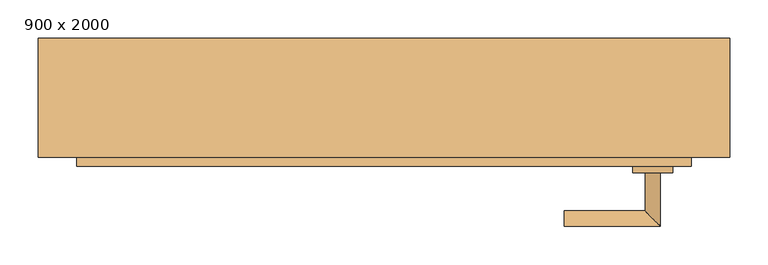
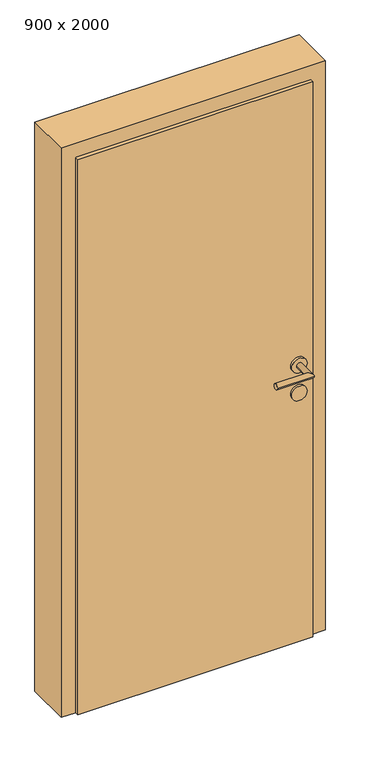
"""IFC4 building model written with IfcOpenShell, lengths in millimetres: door geometry, Jednokridle oboustrana zaruben : 900 x 2000."""

import ifcopenshell
import ifcopenshell.guid

model = None  # the IFC model being written
_history = None  # IfcOwnerHistory: only IFC2X3 demands one
_inside = {}  # id of a spatial element -> (the spatial element, [elements in it])
_under = {}  # id of a project, library or spatial element -> (it, [spatial elements below it])
_declared = {}  # id of a project -> (the project, [libraries it declares])
_typed = {}  # id of a type object -> (the type object, [elements of that type])
_made_of = {}  # id of a material, layer set ... -> (it, [elements and type objects made of it])


def new_model(schema):
    """Start an empty IFC model of exactly this schema.

    Asked for "IFC4X3", IfcOpenShell would pick the latest addendum, in which some entities
    have other attributes; the version numbers below select the first issue.
    IFC2X3 requires an IfcOwnerHistory on every rooted entity: one is made here for all.
    """
    global model, _history
    if schema == "IFC4X3":
        model = ifcopenshell.file(schema_version=(4, 3, 0, 0))
    else:
        model = ifcopenshell.file(schema=schema)
    _inside.clear()
    _under.clear()
    _declared.clear()
    _typed.clear()
    _made_of.clear()
    _history = None
    if model.schema == "IFC2X3":
        org = make("IfcOrganization", Name="unknown")
        user = make(
            "IfcPersonAndOrganization",
            ThePerson=make("IfcPerson", FamilyName="unknown"),
            TheOrganization=org,
        )
        app = make(
            "IfcApplication",
            ApplicationDeveloper=org,
            Version="unknown",
            ApplicationFullName="unknown",
            ApplicationIdentifier="unknown",
        )
        _history = make(
            "IfcOwnerHistory",
            OwningUser=user,
            OwningApplication=app,
            ChangeAction="ADDED",
            CreationDate=0,
        )
    return model


def make(cls, **values):
    """One entity of the class cls with the attributes given. An attribute that is None is left unset."""
    return model.create_entity(
        cls, **{name: value for name, value in values.items() if value is not None}
    )


def rooted(cls, **values):
    """An entity with a GlobalId (a new one), such as an element, a storey or a relation."""
    return make(cls, GlobalId=ifcopenshell.guid.new(), OwnerHistory=_history, **values)


def si_unit(unit_type, name, prefix=None):
    """IfcSIUnit, for example si_unit("LENGTHUNIT", "METRE", prefix="MILLI")."""
    return make("IfcSIUnit", UnitType=unit_type, Prefix=prefix, Name=name)


def assignment(units):
    """IfcUnitAssignment: the units of a project."""
    return None if units is None else make("IfcUnitAssignment", Units=units)


def point(xyz):
    """IfcCartesianPoint."""
    return None if xyz is None else make("IfcCartesianPoint", Coordinates=xyz)


def direction(xyz):
    """IfcDirection."""
    return None if xyz is None else make("IfcDirection", DirectionRatios=xyz)


def frame(location, z_axis=None, x_axis=None):
    """IfcAxis2Placement3D, a coordinate frame: its origin and axes. An axis left out is left unset."""
    return make(
        "IfcAxis2Placement3D",
        Location=point(location),
        Axis=direction(z_axis),
        RefDirection=direction(x_axis),
    )


def frame_2d(location, x_axis=None):
    """IfcAxis2Placement2D, a coordinate frame in the plane: its origin and x axis."""
    return make(
        "IfcAxis2Placement2D", Location=point(location), RefDirection=direction(x_axis)
    )


def origin():
    """The frame at (0, 0, 0) with its axes left unset."""
    return frame((0.0, 0.0, 0.0))


def origin_with_axes():
    """The frame at (0, 0, 0) with the z axis (0, 0, 1) and the x axis (1, 0, 0) written out."""
    return frame((0.0, 0.0, 0.0), z_axis=(0.0, 0.0, 1.0), x_axis=(1.0, 0.0, 0.0))


def place(relative_to, where):
    """IfcLocalPlacement: puts the frame where relative to a parent placement (None: the world)."""
    return make(
        "IfcLocalPlacement", PlacementRelTo=relative_to, RelativePlacement=where
    )


def context(
    kind, dimensions, precision=None, world=None, true_north=None, identifier=None
):
    """IfcGeometricRepresentationContext, for example the 3D "Model" context."""
    return make(
        "IfcGeometricRepresentationContext",
        ContextIdentifier=identifier,
        ContextType=kind,
        CoordinateSpaceDimension=dimensions,
        Precision=precision,
        WorldCoordinateSystem=world,
        TrueNorth=true_north,
    )


def project(units=None, contexts=None):
    """IfcProject with its units and contexts."""
    return rooted(
        "IfcProject",
        Name="project",
        RepresentationContexts=contexts,
        UnitsInContext=assignment(units),
    )


def spatial(cls, under=None, at=None, **own):
    """A site, building, storey or space (cls), placed at a placement, below another one or the project."""
    s = rooted(cls, ObjectPlacement=at, **own)
    if under is not None:
        _under.setdefault(under.id(), (under, []))[1].append(s)
    return s


def polyline(points):
    """IfcPolyline through the points."""
    return make("IfcPolyline", Points=[point(p) for p in points])


def circle_curve(where, radius):
    """IfcCircle in the frame where."""
    return make("IfcCircle", Position=where, Radius=radius)


def ellipse_curve(where, semi_axis1, semi_axis2):
    """IfcEllipse in the frame where."""
    return make(
        "IfcEllipse", Position=where, SemiAxis1=semi_axis1, SemiAxis2=semi_axis2
    )


def trimmed(basis, trim1, trim2, sense, master):
    """IfcTrimmedCurve: the piece of a basis curve between two trims."""
    return make(
        "IfcTrimmedCurve",
        BasisCurve=basis,
        Trim1=trim1,
        Trim2=trim2,
        SenseAgreement=sense,
        MasterRepresentation=master,
    )


def segment(curve, same_sense, transition):
    """IfcCompositeCurveSegment."""
    return make(
        "IfcCompositeCurveSegment",
        Transition=transition,
        SameSense=same_sense,
        ParentCurve=curve,
    )


def composite_curve(segments, self_intersect=None):
    """IfcCompositeCurve: segments joined end to end."""
    return make("IfcCompositeCurve", Segments=segments, SelfIntersect=self_intersect)


def outline(outer, holes=None, kind="AREA"):
    """IfcArbitraryClosedProfileDef: a profile drawn as a closed curve; with holes, ...WithVoids."""
    if holes is None:
        return make("IfcArbitraryClosedProfileDef", ProfileType=kind, OuterCurve=outer)
    return make(
        "IfcArbitraryProfileDefWithVoids",
        ProfileType=kind,
        OuterCurve=outer,
        InnerCurves=holes,
    )


def extrude(swept, where, along, depth):
    """IfcExtrudedAreaSolid: the profile swept, set in the frame where, extruded along a direction by depth."""
    return make(
        "IfcExtrudedAreaSolid",
        SweptArea=swept,
        Position=where,
        ExtrudedDirection=direction(along),
        Depth=depth,
    )


def shape(context_of_items, identifier, shape_type, items):
    """IfcShapeRepresentation: the items that make up one representation, for example the "Body"."""
    return make(
        "IfcShapeRepresentation",
        ContextOfItems=context_of_items,
        RepresentationIdentifier=identifier,
        RepresentationType=shape_type,
        Items=items,
    )


def source(mapping_origin, context_of_items, identifier, shape_type, items):
    """IfcRepresentationMap: a shape defined once, which mapped items show again and again."""
    return make(
        "IfcRepresentationMap",
        MappingOrigin=mapping_origin,
        MappedRepresentation=shape(context_of_items, identifier, shape_type, items),
    )


def transform(
    local_origin,
    x_axis=None,
    y_axis=None,
    z_axis=None,
    scale=None,
    scale2=None,
    scale3=None,
    uniform=True,
):
    """IfcCartesianTransformationOperator3D, or its non-uniform kind. x_axis, y_axis, z_axis: its Axis1, 2, 3."""
    if uniform:
        return make(
            "IfcCartesianTransformationOperator3D",
            Axis1=direction(x_axis),
            Axis2=direction(y_axis),
            LocalOrigin=point(local_origin),
            Scale=scale,
            Axis3=direction(z_axis),
        )
    return make(
        "IfcCartesianTransformationOperator3DnonUniform",
        Axis1=direction(x_axis),
        Axis2=direction(y_axis),
        LocalOrigin=point(local_origin),
        Scale=scale,
        Axis3=direction(z_axis),
        Scale2=scale2,
        Scale3=scale3,
    )


def mapped(mapping_source, mapping_target):
    """IfcMappedItem: shows the shape of a source again, moved by a transform."""
    return make(
        "IfcMappedItem", MappingSource=mapping_source, MappingTarget=mapping_target
    )


def made_of(thing, what):
    """Note that an element or type object is made of a material, layer set ...; save() writes the relation."""
    if what is not None:
        _made_of.setdefault(what.id(), (what, []))[1].append(thing)
    return thing


def element(
    cls,
    number,
    at=None,
    inside=None,
    cuts=None,
    type_object=None,
    material=None,
    context=None,
    identifier="Body",
    shape_type=None,
    held_by="IfcProductDefinitionShape",
    body=None,
    shapes=None,
    **own,
):
    """One element of the class cls, such as IfcWall. Its Tag is "e" and its number.

    at: its placement. inside: the storey or other place that contains it. cuts: it is an
    opening in that element (IfcRelVoidsElement). A single representation is given by context,
    identifier, shape_type and body (its items); several are given by shapes. held_by: the class
    of the entity that holds the representations. save() writes the other relations.
    """
    e = rooted(cls, Tag="e%d" % number, ObjectPlacement=at, **own)
    if body is not None:
        shapes = [shape(context, identifier, shape_type, body)]
    if shapes is not None:
        e.Representation = make(held_by, Representations=shapes)
    if inside is not None:
        _inside.setdefault(inside.id(), (inside, []))[1].append(e)
    if cuts is not None:
        rooted(
            "IfcRelVoidsElement", RelatingBuildingElement=cuts, RelatedOpeningElement=e
        )
    if type_object is not None:
        _typed.setdefault(type_object.id(), (type_object, []))[1].append(e)
    return made_of(e, material)


def aggregate(whole, parts):
    """IfcRelAggregates: a whole, such as a stair, and the parts it consists of."""
    return rooted("IfcRelAggregates", RelatingObject=whole, RelatedObjects=parts)


def save(model, path):
    """Write the relations noted so far, then the file.

    IfcRelAggregates (storeys below a building ...), IfcRelContainedInSpatialStructure (elements
    in a storey), IfcRelDefinesByType, IfcRelAssociatesMaterial and IfcRelDeclares: one each for
    every whole, place, type object, material and project.
    """
    for whole, parts in _under.values():
        aggregate(whole, parts)
    for where, things in _inside.values():
        rooted(
            "IfcRelContainedInSpatialStructure",
            RelatedElements=things,
            RelatingStructure=where,
        )
    for kind, things in _typed.values():
        rooted("IfcRelDefinesByType", RelatedObjects=things, RelatingType=kind)
    for what, things in _made_of.values():
        rooted("IfcRelAssociatesMaterial", RelatedObjects=things, RelatingMaterial=what)
    for by, libraries in _declared.values():
        rooted("IfcRelDeclares", RelatingContext=by, RelatedDefinitions=libraries)
    model.write(path)


def plane_surface(at):
    """IfcPlane: the flat surface through the origin of the frame at, square to its z axis."""
    return make("IfcPlane", Position=at)


def cylinder_surface(at, radius):
    """IfcCylindricalSurface: all points at the distance radius from the z axis of the frame at."""
    return make("IfcCylindricalSurface", Position=at, Radius=radius)


def advanced_brep(points, edges, surfaces, faces):
    """IfcAdvancedBrep: a solid bounded by faces that lie on surfaces and meet in shared edges.

    An edge is (start, end): straight between two places in points (the first is 0);
    or (start, end, curve); or (start, end, curve, False) where it runs against its curve.
    A face is (place in surfaces, loops), or (place, loops, False) where it looks against
    its surface's normal. A loop lists edges by number (the first is 1), with a minus sign
    where the edge is run from its end to its start. The first loop is the outer one.
    """
    corners = [point(p) for p in points]
    vertices = [make("IfcVertexPoint", VertexGeometry=c) for c in corners]
    made = []
    for start, end, *more in edges:
        made.append(
            make(
                "IfcEdgeCurve",
                EdgeStart=vertices[start],
                EdgeEnd=vertices[end],
                EdgeGeometry=more[0] if more else make("IfcPolyline", Points=[corners[start], corners[end]]),
                SameSense=more[1] if len(more) > 1 else True,
            )
        )
    hull = []
    for where, loops, *sense in faces:
        bounds = []
        for j, loop in enumerate(loops):
            ring = [make("IfcOrientedEdge", EdgeElement=made[abs(k) - 1], Orientation=k > 0) for k in loop]
            bounds.append(
                make(
                    "IfcFaceOuterBound" if j == 0 else "IfcFaceBound",
                    Bound=make("IfcEdgeLoop", EdgeList=ring),
                    Orientation=True,
                )
            )
        hull.append(make("IfcAdvancedFace", Bounds=bounds, FaceSurface=surfaces[where], SameSense=sense[0] if sense else True))
    return make("IfcAdvancedBrep", Outer=make("IfcClosedShell", CfsFaces=hull))


def door_900_x_2000_4c66a93d(model_context):
    return source(origin(), model_context, "Body", "SolidModel", [
        advanced_brep(
        [(340.0, -97.25, 1000.0), (320.0, -97.25, 1000.0), (340.0, -167.25, 1000.0), (320.0, -147.25, 1000.0), (215.0, -167.25, 1000.0), (215.0, -147.25, 1000.0)],
        [
            (0, 1, circle_curve(frame((330.0, -97.25, 1000.0), z_axis=(0.0, 1.0, 0.0), x_axis=(-1.0, 0.0, 0.0)), 10.0)),
            (1, 0, circle_curve(frame((330.0, -97.25, 1000.0), z_axis=(0.0, 1.0, 0.0), x_axis=(-1.0, 0.0, 0.0)), 10.0)),
            (0, 2),
            (2, 3, ellipse_curve(frame((330.0, -157.25, 1000.0), z_axis=(0.7071067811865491, 0.7071067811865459, 0.0), x_axis=(-0.7071067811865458, 0.7071067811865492, 0.0)), 14.1421356, 10.0)),
            (3, 1),
            (3, 2, ellipse_curve(frame((330.0, -157.25, 1000.0), z_axis=(0.7071067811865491, 0.7071067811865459, 0.0), x_axis=(-0.7071067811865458, 0.7071067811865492, 0.0)), 14.1421356, 10.0)),
            (4, 5, circle_curve(frame((215.0, -157.25, 1000.0), z_axis=(-1.0, 0.0, 0.0), x_axis=(0.0, 1.0, 0.0)), 10.0)),
            (5, 4, circle_curve(frame((215.0, -157.25, 1000.0), z_axis=(-1.0, 0.0, 0.0), x_axis=(0.0, 1.0, 0.0)), 10.0)),
            (2, 4),
            (5, 3),
        ],
        [
            plane_surface(frame((330.0, -97.25, 1000.0), z_axis=(0.0, 1.0, 0.0), x_axis=(0.0, 0.0, 1.0))),
            cylinder_surface(frame((330.0, -97.25, 1000.0), z_axis=(0.0, 1.0, 0.0), x_axis=(-1.0, 0.0, 0.0)), 10.0),
            plane_surface(frame((215.0, -157.25, 1000.0), z_axis=(-1.0, 0.0, 0.0), x_axis=(0.0, 0.0, 1.0))),
            cylinder_surface(frame((330.0, -157.25, 1000.0), z_axis=(1.0, 0.0, 0.0), x_axis=(0.0, 1.0, 0.0)), 10.0),
        ],
        [
            (0, [[1, 2]]),
            (1, [[-1, 3, 4, 5]]),
            (1, [[-2, -5, 6, -3]]),
            (2, [[7, 8]]),
            (3, [[-4, 9, -8, 10]]),
            (3, [[-6, -10, -7, -9]]),
        ],
    ),
        extrude(outline(composite_curve([segment(trimmed(circle_curve(frame_2d((900.0, 330.0)), 26.0), [point((900.0, 304.0))], [point((900.0, 356.0))], False, "CARTESIAN"), True, "CONTINUOUS"), segment(trimmed(circle_curve(frame_2d((900.0, 330.0)), 26.0), [point((900.0, 356.0))], [point((900.0, 304.0))], False, "CARTESIAN"), True, "CONTINUOUS")], self_intersect=False)), frame((0.0, -97.25, 0.0), z_axis=(0.0, 1.0, 0.0), x_axis=(0.0, 0.0, 1.0)), (0.0, 0.0, 1.0), 8.0),
        extrude(outline(composite_curve([segment(trimmed(circle_curve(frame_2d((1000.0, 330.0)), 26.0), [point((1000.0, 304.0))], [point((1000.0, 356.0))], False, "CARTESIAN"), True, "CONTINUOUS"), segment(trimmed(circle_curve(frame_2d((1000.0, 330.0)), 26.0), [point((1000.0, 356.0))], [point((1000.0, 304.0))], False, "CARTESIAN"), True, "CONTINUOUS")], self_intersect=False)), frame((0.0, -97.25, 0.0), z_axis=(0.0, 1.0, 0.0), x_axis=(0.0, 0.0, 1.0)), (0.0, 0.0, 1.0), 8.0),
        advanced_brep(
        [(340.0, -41.25, 1000.0), (320.0, -41.25, 1000.0), (320.0, 8.75, 1000.0), (340.0, 28.75, 1000.0), (215.0, 28.75, 1000.0), (215.0, 8.75, 1000.0)],
        [
            (0, 1, circle_curve(frame((330.0, -41.25, 1000.0), z_axis=(0.0, -1.0, 0.0), x_axis=(-1.0, 0.0, 0.0)), 10.0)),
            (1, 0, circle_curve(frame((330.0, -41.25, 1000.0), z_axis=(0.0, -1.0, 0.0), x_axis=(-1.0, 0.0, 0.0)), 10.0)),
            (1, 2),
            (2, 3, ellipse_curve(frame((330.0, 18.75, 1000.0), z_axis=(0.7071067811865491, -0.7071067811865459, 0.0), x_axis=(-0.7071067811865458, -0.7071067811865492, 0.0)), 14.1421356, 10.0)),
            (3, 0),
            (3, 2, ellipse_curve(frame((330.0, 18.75, 1000.0), z_axis=(0.7071067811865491, -0.7071067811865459, 0.0), x_axis=(-0.7071067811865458, -0.7071067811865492, 0.0)), 14.1421356, 10.0)),
            (4, 5, circle_curve(frame((215.0, 18.75, 1000.0), z_axis=(-1.0, 0.0, 0.0), x_axis=(0.0, -1.0, 0.0)), 10.0)),
            (5, 4, circle_curve(frame((215.0, 18.75, 1000.0), z_axis=(-1.0, 0.0, 0.0), x_axis=(0.0, -1.0, 0.0)), 10.0)),
            (2, 5),
            (4, 3),
        ],
        [
            plane_surface(frame((330.0, -41.25, 1000.0), z_axis=(0.0, -1.0, 0.0), x_axis=(0.0, 0.0, 1.0))),
            cylinder_surface(frame((330.0, -41.25, 1000.0), z_axis=(0.0, -1.0, 0.0), x_axis=(-1.0, 0.0, 0.0)), 10.0),
            plane_surface(frame((215.0, 18.75, 1000.0), z_axis=(-1.0, 0.0, 0.0), x_axis=(0.0, 0.0, 1.0))),
            cylinder_surface(frame((330.0, 18.75, 1000.0), z_axis=(1.0, 0.0, 0.0), x_axis=(0.0, -1.0, 0.0)), 10.0),
        ],
        [
            (0, [[1, 2]]),
            (1, [[3, 4, 5, -2]]),
            (1, [[-5, 6, -3, -1]]),
            (2, [[7, 8]]),
            (3, [[9, -7, 10, -4]]),
            (3, [[-10, -8, -9, -6]]),
        ],
    ),
        extrude(outline(composite_curve([segment(trimmed(circle_curve(frame_2d((900.0, 330.0)), 26.0), [point((900.0, 304.0))], [point((900.0, 356.0))], False, "CARTESIAN"), True, "CONTINUOUS"), segment(trimmed(circle_curve(frame_2d((900.0, 330.0)), 26.0), [point((900.0, 356.0))], [point((900.0, 304.0))], False, "CARTESIAN"), True, "CONTINUOUS")], self_intersect=False)), frame((0.0, -49.25, 0.0), z_axis=(0.0, 1.0, 0.0), x_axis=(0.0, 0.0, 1.0)), (0.0, 0.0, 1.0), 8.0),
        extrude(outline(composite_curve([segment(trimmed(circle_curve(frame_2d((1000.0, 330.0)), 26.0), [point((1000.0, 304.0))], [point((1000.0, 356.0))], False, "CARTESIAN"), True, "CONTINUOUS"), segment(trimmed(circle_curve(frame_2d((1000.0, 330.0)), 26.0), [point((1000.0, 356.0))], [point((1000.0, 304.0))], False, "CARTESIAN"), True, "CONTINUOUS")], self_intersect=False)), frame((0.0, -49.25, 0.0), z_axis=(0.0, 1.0, 0.0), x_axis=(0.0, 0.0, 1.0)), (0.0, 0.0, 1.0), 8.0),
        extrude(outline(polyline([(-420.0, -89.25), (-420.0, -49.25), (380.0, -49.25), (380.0, -89.25), (-420.0, -89.25)])), origin_with_axes(), (0.0, 0.0, 1.0), 2000.0),
        extrude(outline(polyline([(0.0, 430.0), (2050.0, 430.0), (2050.0, -470.0), (0.0, -470.0), (0.0, -420.0), (2000.0, -420.0), (2000.0, 380.0), (0.0, 380.0), (0.0, 430.0)])), frame((0.0, -77.25, 0.0), z_axis=(0.0, 1.0, 0.0), x_axis=(0.0, 0.0, 1.0)), (0.0, 0.0, 1.0), 154.5),
        extrude(outline(polyline([(380.0, 69.25), (380.0, -49.25), (-420.0, -49.25), (-420.0, 69.25), (380.0, 69.25)])), origin_with_axes(), (0.0, 0.0, 1.0), 25.0),
    ])


if __name__ == "__main__":
    model = new_model("IFC4")
    model_context = context("Model", 3, world=origin())
    ifc_project = project(units=[si_unit("LENGTHUNIT", "METRE", prefix="MILLI")], contexts=[model_context])
    site = spatial("IfcSite", under=ifc_project)
    building = spatial("IfcBuilding", under=site)
    placement = place(None, origin())
    door_900_x_2000_shape = door_900_x_2000_4c66a93d(model_context)
    element("IfcDoor", 1, ObjectType="Jednokridle oboustrana zaruben : 900 x 2000", at=placement, inside=building, context=model_context, shape_type="MappedRepresentation", body=[
        mapped(door_900_x_2000_shape, transform((0.0, 0.0, 0.0), x_axis=(1.0, 0.0, 0.0), y_axis=(0.0, 1.0, 0.0), z_axis=(0.0, 0.0, 1.0))),
    ])
    save(model, "model.ifc")
